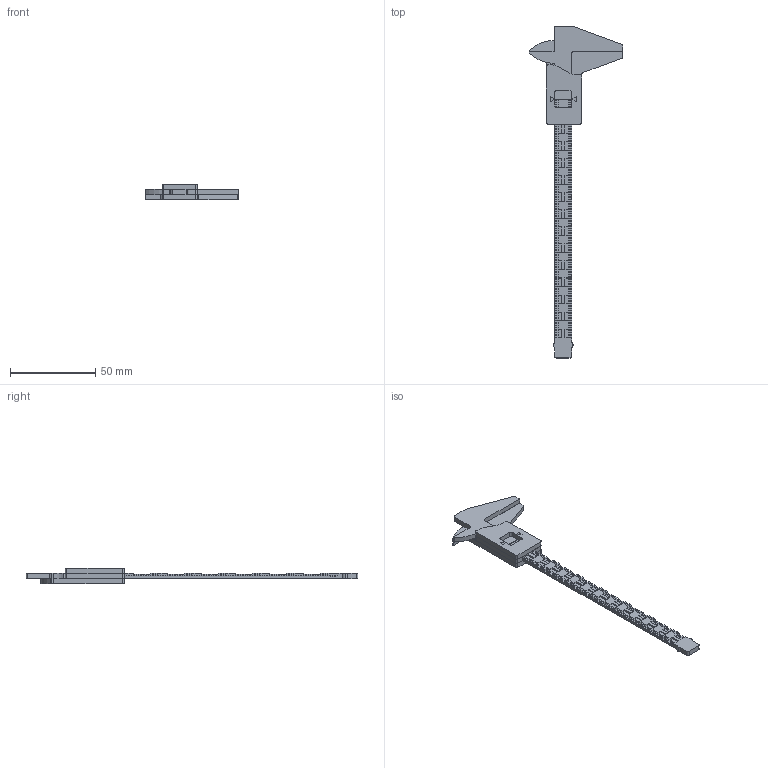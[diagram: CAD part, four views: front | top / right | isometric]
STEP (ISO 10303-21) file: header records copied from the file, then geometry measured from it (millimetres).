
FILE_DESCRIPTION (( 'STEP AP203' ), '1' );
FILE_NAME ('Assemblage1.STEP', '2020-03-24T17:36:43', ( '' ), ( '' ), 'SwSTEP 2.0', 'SolidWorks 2020', '' );
FILE_SCHEMA (( 'CONFIG_CONTROL_DESIGN' ));
Length unit declared in the file: millimetre
Products named in the file (6): Curseur; coté machoire mov; arr machoir mov; machoire mov; Assemblage1; Tige fixe
Assembly tree (5 placements, depth 2):
  Assemblage1
    Tige fixe
    coté machoire mov
    machoire mov
    arr machoir mov
    Curseur
Bounding box: 55 x 195 x 9 mm (x, y, z)
Volume: 12348.6 mm3; surface area: 12294.9 mm2
Topology: 5 solids, 5 shells, 666 faces, 1950 edges, 1296 vertices
Faces by surface type: plane 632, cylinder 34
Entity records: 22302 total; most frequent: CARTESIAN_POINT 3920, ORIENTED_EDGE 3900, DIRECTION 3366, EDGE_CURVE 1950, LINE 1882, VECTOR 1882, VERTEX_POINT 1296, AXIS2_PLACEMENT_3D 742
